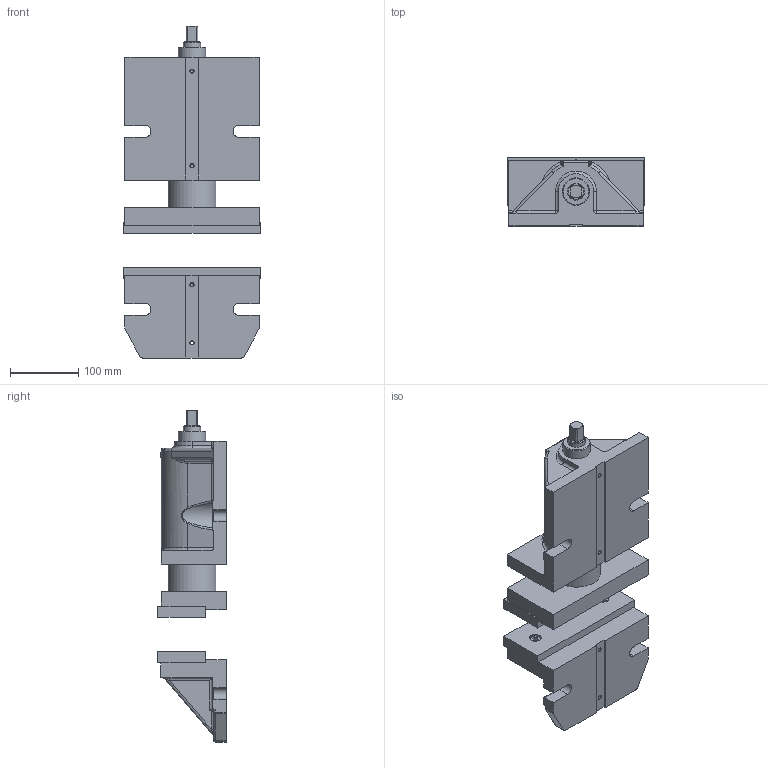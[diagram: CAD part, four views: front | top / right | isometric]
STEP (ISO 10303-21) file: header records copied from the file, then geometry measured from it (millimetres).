
FILE_DESCRIPTION(/* description */ (''),/* implementation_level */ '2;1');
FILE_NAME(/* name */ '',/* time_stamp */ '2025-09-01T17:09:12+03:00',/* author */ ('User'),/* organization */ (''),/* preprocessor_version */ 'ST-DEVELOPER v19.2',/* originating_system */ 'Autodesk Inventor 2024',/* authorisation */ '');
FILE_SCHEMA (('AUTOMOTIVE_DESIGN { 1 0 10303 214 3 1 1 }'));
Length unit declared in the file: millimetre
Products named in the file (4): Тиски FV-8E; Тиски FV-8E (2); Тиски FV-8E_1; Тиски FV-8E (3)
Assembly tree (3 placements, depth 2):
  Тиски FV-8E
    Тиски FV-8E (2)
    Тиски FV-8E_1
    Тиски FV-8E (3)
Bounding box: 200 x 100 x 485 mm (x, y, z)
Volume: 3711034.5 mm3; surface area: 407007 mm2
Topology: 4 solids, 4 shells, 340 faces, 819 edges, 505 vertices
Faces by surface type: plane 147, cylinder 117, bspline 37, torus 18, cone 13, sphere 8
Full cylindrical faces by diameter (mm): 4.917 x4, 8 x1, 14 x1, 15 x4, 17 x4, 25 x1, 40 x1, 70 x2
Entity records: 11204 total; most frequent: CARTESIAN_POINT 3067, DIRECTION 1657, ORIENTED_EDGE 1626, EDGE_CURVE 813, AXIS2_PLACEMENT_3D 599, VERTEX_POINT 505, LINE 459, VECTOR 459
